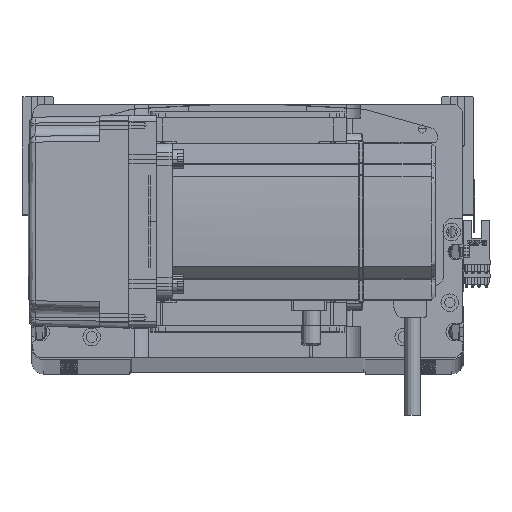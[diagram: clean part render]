
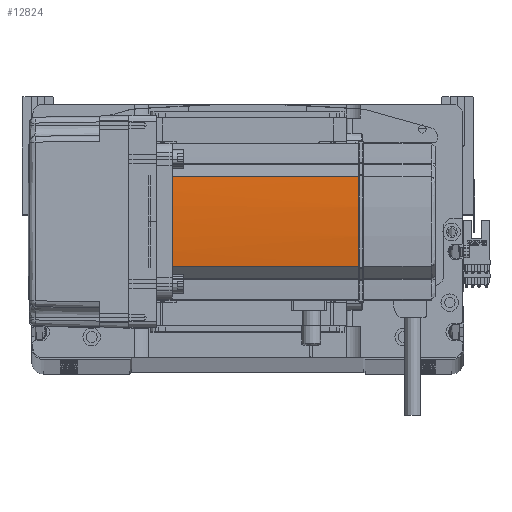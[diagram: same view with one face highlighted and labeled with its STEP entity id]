
A CAD part, top view. The second image highlights one B-rep face of the part: STEP entity #12824.
In plain terms, the highlighted cylindrical face has radius 270 mm (diameter 540 mm), a partial arc.
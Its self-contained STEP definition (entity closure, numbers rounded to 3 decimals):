
#4035 = CARTESIAN_POINT ( 'NONE',  ( -230., 0., 134. ) ) ;
#4271 = CARTESIAN_POINT ( 'NONE',  ( 39.042, -22.724, 134. ) ) ;
#4677 = CARTESIAN_POINT ( 'NONE',  ( 40., 0.127, 134. ) ) ;
#7588 = CIRCLE ( 'NONE', #36001, 270. ) ;
#8024 = VECTOR ( 'NONE', #10405, 1000. ) ;
#9317 = DIRECTION ( 'NONE',  ( -1., 0., 0. ) ) ;
#9759 = EDGE_CURVE ( 'NONE', #15548, #27113, #7588, .T. ) ;
#10405 = DIRECTION ( 'NONE',  ( 0., 0., 1. ) ) ;
#10497 = LINE ( 'NONE', #55515, #60621 ) ;
#11837 = CARTESIAN_POINT ( 'NONE',  ( 39.042, -22.724, 39. ) ) ;
#12824 = ADVANCED_FACE ( 'NONE', ( #61812 ), #51987, .T. ) ;
#13160 = CARTESIAN_POINT ( 'NONE',  ( 40., 0.127, 134. ) ) ;
#13354 = DIRECTION ( 'NONE',  ( 0., 0., -1. ) ) ;
#14620 = DIRECTION ( 'NONE',  ( 0., 0., -1. ) ) ;
#14963 = CARTESIAN_POINT ( 'NONE',  ( 40., -0.127, 134. ) ) ;
#15548 = VERTEX_POINT ( 'NONE', #15711 ) ;
#15711 = CARTESIAN_POINT ( 'NONE',  ( 39.042, 22.724, 39. ) ) ;
#16575 = EDGE_CURVE ( 'NONE', #15548, #50475, #25507, .T. ) ;
#16935 = EDGE_CURVE ( 'NONE', #50475, #39766, #48156, .T. ) ;
#18367 = CARTESIAN_POINT ( 'NONE',  ( -230., 0., 39. ) ) ;
#18842 = ORIENTED_EDGE ( 'NONE', *, *, #16575, .T. ) ;
#25507 = LINE ( 'NONE', #35209, #8024 ) ;
#27113 = VERTEX_POINT ( 'NONE', #11837 ) ;
#27867 = EDGE_CURVE ( 'NONE', #44346, #39766, #52322, .T. ) ;
#28790 = DIRECTION ( 'NONE',  ( -1., 0., 0. ) ) ;
#29072 = CARTESIAN_POINT ( 'NONE',  ( -230., 0., 58. ) ) ;
#30531 = AXIS2_PLACEMENT_3D ( 'NONE', #29072, #14620, #59439 ) ;
#30887 = VERTEX_POINT ( 'NONE', #4271 ) ;
#32700 = CARTESIAN_POINT ( 'NONE',  ( 40., -0.127, 134. ) ) ;
#32834 = DIRECTION ( 'NONE',  ( 0., 0., -1. ) ) ;
#35136 = EDGE_CURVE ( 'NONE', #44346, #30887, #62900, .T. ) ;
#35209 = CARTESIAN_POINT ( 'NONE',  ( 39.042, 22.724, 58. ) ) ;
#36001 = AXIS2_PLACEMENT_3D ( 'NONE', #18367, #32834, #42595 ) ;
#39766 = VERTEX_POINT ( 'NONE', #4677 ) ;
#39901 = ORIENTED_EDGE ( 'NONE', *, *, #27867, .F. ) ;
#41168 = EDGE_LOOP ( 'NONE', ( #53365, #42812, #18842, #46580, #39901, #48204 ) ) ;
#41391 = AXIS2_PLACEMENT_3D ( 'NONE', #4035, #13354, #9317 ) ;
#42595 = DIRECTION ( 'NONE',  ( -1., 0., 0. ) ) ;
#42812 = ORIENTED_EDGE ( 'NONE', *, *, #9759, .F. ) ;
#43081 = CARTESIAN_POINT ( 'NONE',  ( 40., 0.042, 134. ) ) ;
#44051 = DIRECTION ( 'NONE',  ( 0., 0., -1. ) ) ;
#44346 = VERTEX_POINT ( 'NONE', #14963 ) ;
#46580 = ORIENTED_EDGE ( 'NONE', *, *, #16935, .T. ) ;
#47731 = CARTESIAN_POINT ( 'NONE',  ( 40., -0.042, 134. ) ) ;
#48156 = CIRCLE ( 'NONE', #54719, 270. ) ;
#48204 = ORIENTED_EDGE ( 'NONE', *, *, #35136, .T. ) ;
#50475 = VERTEX_POINT ( 'NONE', #56070 ) ;
#51987 = CYLINDRICAL_SURFACE ( 'NONE', #30531, 270. ) ;
#52322 = B_SPLINE_CURVE_WITH_KNOTS ( 'NONE', 3,
 ( #32700, #47731, #43081, #13160 ),
 .UNSPECIFIED., .F., .F.,
 ( 4, 4 ),
 ( 0., 1. ),
 .UNSPECIFIED. ) ;
#53365 = ORIENTED_EDGE ( 'NONE', *, *, #58661, .T. ) ;
#54719 = AXIS2_PLACEMENT_3D ( 'NONE', #57893, #44051, #28790 ) ;
#55515 = CARTESIAN_POINT ( 'NONE',  ( 39.042, -22.724, 58. ) ) ;
#56070 = CARTESIAN_POINT ( 'NONE',  ( 39.042, 22.724, 134. ) ) ;
#57893 = CARTESIAN_POINT ( 'NONE',  ( -230., 0., 134. ) ) ;
#58661 = EDGE_CURVE ( 'NONE', #30887, #27113, #10497, .T. ) ;
#59439 = DIRECTION ( 'NONE',  ( -1., 0., 0. ) ) ;
#60621 = VECTOR ( 'NONE', #60803, 1000. ) ;
#60803 = DIRECTION ( 'NONE',  ( 0., 0., -1. ) ) ;
#61812 = FACE_OUTER_BOUND ( 'NONE', #41168, .T. ) ;
#62900 = CIRCLE ( 'NONE', #41391, 270. ) ;
